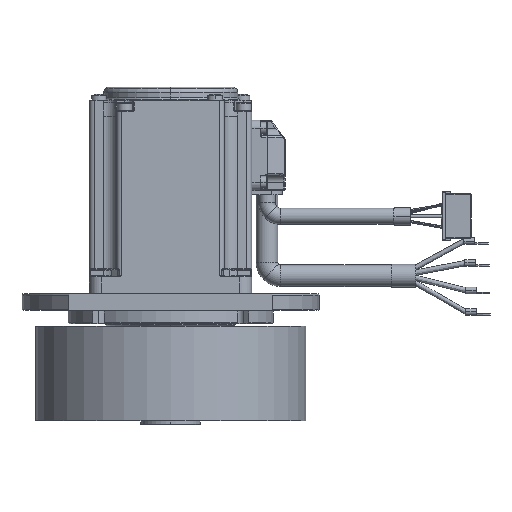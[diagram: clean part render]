
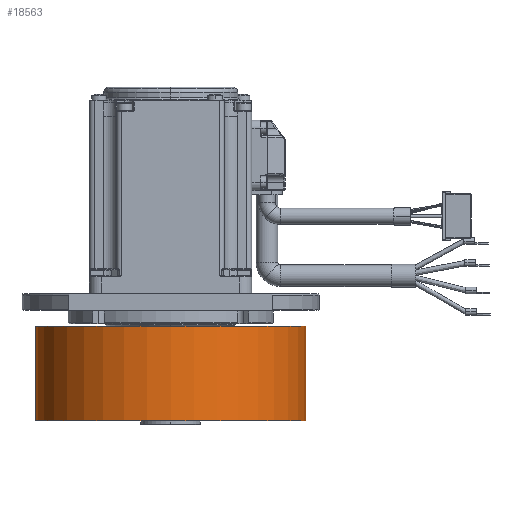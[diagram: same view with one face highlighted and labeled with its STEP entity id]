
A CAD part, front view. The second image highlights one B-rep face of the part: STEP entity #18563.
In plain terms, the highlighted cylindrical face has radius 50 mm (diameter 100 mm), a partial arc.
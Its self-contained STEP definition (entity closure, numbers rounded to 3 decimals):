
#18451=CARTESIAN_POINT('',(35.,0.,0.));
#18452=DIRECTION('',(-1.,0.,0.));
#18453=DIRECTION('',(0.,1.,0.));
#18454=AXIS2_PLACEMENT_3D('',#18451,#18452,#18453);
#18466=DIRECTION('',(1.,0.,0.));
#18467=VECTOR('',#18466,35.);
#18468=CARTESIAN_POINT('',(0.,50.,0.));
#18469=LINE('',#18468,#18467);
#18470=DIRECTION('',(1.,0.,0.));
#18471=VECTOR('',#18470,35.);
#18472=CARTESIAN_POINT('',(0.,-50.,0.));
#18473=LINE('',#18472,#18471);
#18479=CARTESIAN_POINT('',(0.,0.,0.));
#18480=DIRECTION('',(1.,0.,0.));
#18481=DIRECTION('',(0.,-1.,0.));
#18482=AXIS2_PLACEMENT_3D('',#18479,#18480,#18481);
#18502=CARTESIAN_POINT('',(35.,-50.,0.));
#18503=CARTESIAN_POINT('',(35.,50.,0.));
#18504=VERTEX_POINT('',#18502);
#18505=VERTEX_POINT('',#18503);
#18510=CARTESIAN_POINT('',(0.,-50.,0.));
#18511=VERTEX_POINT('',#18510);
#18512=CARTESIAN_POINT('',(0.,50.,0.));
#18513=VERTEX_POINT('',#18512);
#18551=CARTESIAN_POINT('',(35.,0.,0.));
#18552=DIRECTION('',(1.,0.,0.));
#18553=DIRECTION('',(0.,1.,0.));
#18554=AXIS2_PLACEMENT_3D('',#18551,#18552,#18553);
#18555=CYLINDRICAL_SURFACE('',#18554,50.);
#18556=ORIENTED_EDGE('',*,*,#18525,.F.);
#18557=ORIENTED_EDGE('',*,*,#18546,.F.);
#18559=ORIENTED_EDGE('',*,*,#18558,.F.);
#18560=ORIENTED_EDGE('',*,*,#18542,.T.);
#18561=EDGE_LOOP('',(#18556,#18557,#18559,#18560));
#18562=FACE_OUTER_BOUND('',#18561,.F.);
#18563=ADVANCED_FACE('',(#18562),#18555,.T.);
#18455=CIRCLE('',#18454,50.);
#18483=CIRCLE('',#18482,50.);
#18525=EDGE_CURVE('',#18505,#18504,#18455,.T.);
#18542=EDGE_CURVE('',#18511,#18504,#18473,.T.);
#18546=EDGE_CURVE('',#18513,#18505,#18469,.T.);
#18558=EDGE_CURVE('',#18511,#18513,#18483,.T.);
